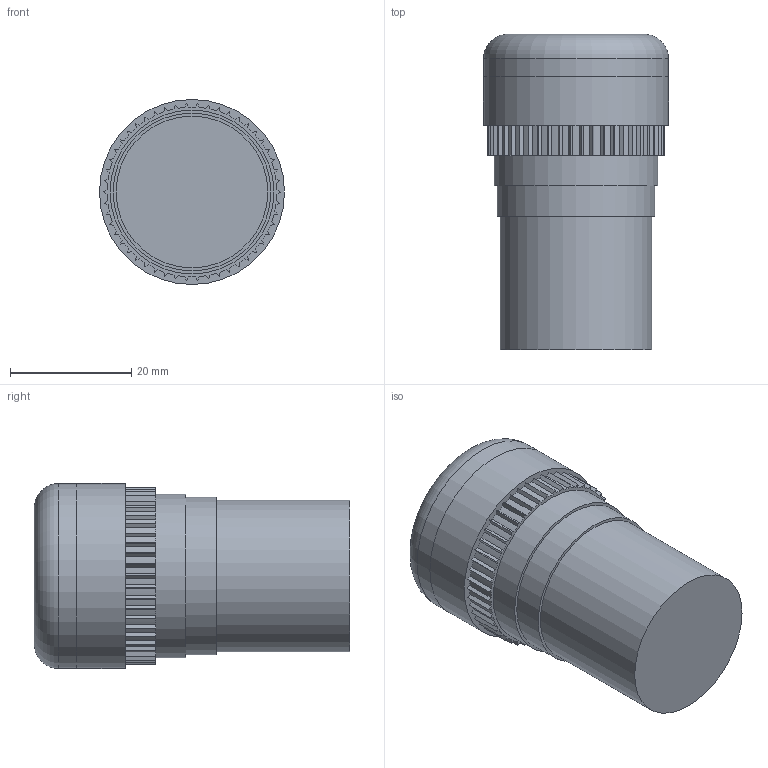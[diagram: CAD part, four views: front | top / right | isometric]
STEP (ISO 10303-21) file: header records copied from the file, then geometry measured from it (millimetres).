
FILE_DESCRIPTION(/* description */ (''),/* implementation_level */ '2;1');
FILE_NAME(/* name */ 'D:\CHINT3\ND16-22DS.stp',/* time_stamp */ '2017-12-10T20:18:16+03:00',/* author */ ('RSagdiev'),/* organization */ (''),/* preprocessor_version */ 'ST-DEVELOPER v16.5',/* originating_system */ 'Autodesk Inventor 2017',/* authorisation */ '');
FILE_SCHEMA (('AUTOMOTIVE_DESIGN { 1 0 10303 214 3 1 1 }'));
Length unit declared in the file: millimetre
Products named in the file (1): ND16-22DS
Bounding box: 30.5 x 52 x 30.5 mm (x, y, z)
Volume: 30095.3 mm3; surface area: 8611.2 mm2
Topology: 3 solids, 3 shells, 165 faces, 467 edges, 311 vertices
Faces by surface type: plane 109, cylinder 55, torus 1
Full cylindrical faces by diameter (mm): 25 x1, 26 x1, 27 x1, 30.5 x2
Entity records: 5350 total; most frequent: CARTESIAN_POINT 938, ORIENTED_EDGE 922, DIRECTION 904, EDGE_CURVE 461, LINE 350, VECTOR 350, VERTEX_POINT 311, AXIS2_PLACEMENT_3D 277
